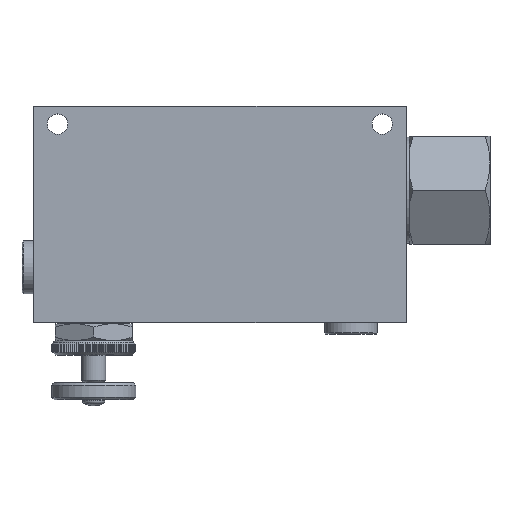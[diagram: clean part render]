
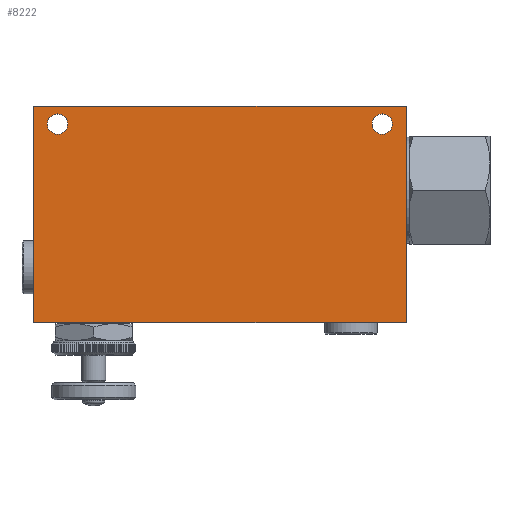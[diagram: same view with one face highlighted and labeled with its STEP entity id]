
A CAD part, top view. The second image highlights one B-rep face of the part: STEP entity #8222.
In plain terms, the highlighted planar face has unit normal (0, 0, 1).
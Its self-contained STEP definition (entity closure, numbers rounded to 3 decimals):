
#653=LINE('',#12506,#996);
#654=LINE('',#12508,#997);
#655=LINE('',#12510,#998);
#656=LINE('',#12511,#999);
#996=VECTOR('',#9669,90.);
#997=VECTOR('',#9670,155.);
#998=VECTOR('',#9671,90.);
#999=VECTOR('',#9672,155.);
#1412=PLANE('',#8782);
#1793=FACE_BOUND('',#2592,.T.);
#1794=FACE_BOUND('',#2593,.T.);
#1999=FACE_OUTER_BOUND('',#2591,.T.);
#2591=EDGE_LOOP('',(#5507,#5508,#5509,#5510));
#2592=EDGE_LOOP('',(#5511));
#2593=EDGE_LOOP('',(#5512));
#3173=CIRCLE('',#8783,4.25);
#3174=CIRCLE('',#8784,4.25);
#3436=VERTEX_POINT('',#12504);
#3437=VERTEX_POINT('',#12505);
#3438=VERTEX_POINT('',#12507);
#3439=VERTEX_POINT('',#12509);
#3440=VERTEX_POINT('',#12512);
#3441=VERTEX_POINT('',#12514);
#4257=EDGE_CURVE('',#3436,#3437,#653,.T.);
#4258=EDGE_CURVE('',#3438,#3436,#654,.T.);
#4259=EDGE_CURVE('',#3439,#3438,#655,.T.);
#4260=EDGE_CURVE('',#3437,#3439,#656,.T.);
#4261=EDGE_CURVE('',#3440,#3440,#3173,.T.);
#4262=EDGE_CURVE('',#3441,#3441,#3174,.T.);
#5507=ORIENTED_EDGE('',*,*,#4257,.F.);
#5508=ORIENTED_EDGE('',*,*,#4258,.F.);
#5509=ORIENTED_EDGE('',*,*,#4259,.F.);
#5510=ORIENTED_EDGE('',*,*,#4260,.F.);
#5511=ORIENTED_EDGE('',*,*,#4261,.T.);
#5512=ORIENTED_EDGE('',*,*,#4262,.T.);
#8222=ADVANCED_FACE('',(#1999,#1793,#1794),#1412,.T.);
#8782=AXIS2_PLACEMENT_3D('',#12503,#9667,#9668);
#8783=AXIS2_PLACEMENT_3D('',#12513,#9673,#9674);
#8784=AXIS2_PLACEMENT_3D('',#12515,#9675,#9676);
#9667=DIRECTION('center_axis',(0.,0.,1.));
#9668=DIRECTION('ref_axis',(1.,0.,0.));
#9669=DIRECTION('',(0.,1.,0.));
#9670=DIRECTION('',(-1.,0.,0.));
#9671=DIRECTION('',(0.,-1.,0.));
#9672=DIRECTION('',(1.,0.,0.));
#9673=DIRECTION('center_axis',(0.,0.,-1.));
#9674=DIRECTION('ref_axis',(1.,0.,0.));
#9675=DIRECTION('center_axis',(0.,0.,-1.));
#9676=DIRECTION('ref_axis',(1.,0.,0.));
#12503=CARTESIAN_POINT('Origin',(77.5,45.,50.));
#12504=CARTESIAN_POINT('',(0.,0.,50.));
#12505=CARTESIAN_POINT('',(0.,90.,50.));
#12506=CARTESIAN_POINT('',(0.,90.,50.));
#12507=CARTESIAN_POINT('',(155.,0.,50.));
#12508=CARTESIAN_POINT('',(0.,0.,50.));
#12509=CARTESIAN_POINT('',(155.,90.,50.));
#12510=CARTESIAN_POINT('',(155.,0.,50.));
#12511=CARTESIAN_POINT('',(155.,90.,50.));
#12512=CARTESIAN_POINT('',(14.25,82.5,50.));
#12513=CARTESIAN_POINT('Origin',(10.,82.5,50.));
#12514=CARTESIAN_POINT('',(149.25,82.5,50.));
#12515=CARTESIAN_POINT('Origin',(145.,82.5,50.));
